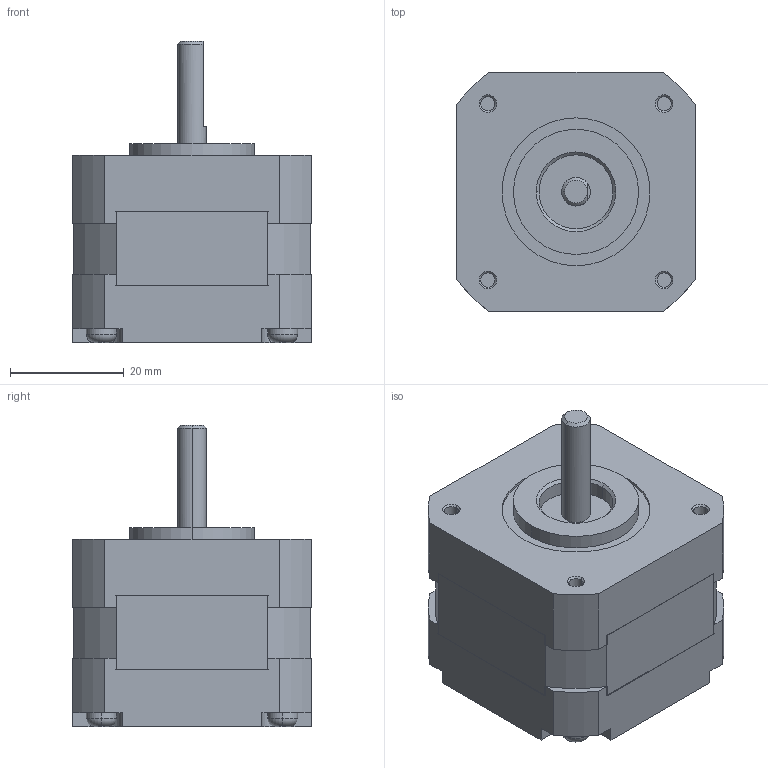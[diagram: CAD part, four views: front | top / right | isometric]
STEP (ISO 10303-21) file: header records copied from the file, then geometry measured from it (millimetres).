
FILE_DESCRIPTION (( 'STEP AP214' ), '1' );
FILE_NAME ('TS3617N1.STEP', '2011-09-15T08:47:03', ( '' ), ( '' ), 'SwSTEP 2.0', 'SolidWorks 2010', '' );
FILE_SCHEMA (( 'AUTOMOTIVE_DESIGN' ));
Length unit declared in the file: millimetre
Products named in the file (1): TS3617N1
Bounding box: 42 x 42 x 53 mm (x, y, z)
Volume: 55627.5 mm3; surface area: 13405.2 mm2
Topology: 2 solids, 2 shells, 188 faces, 496 edges, 322 vertices
Faces by surface type: plane 96, cylinder 70, cone 14, torus 8
Entity records: 6194 total; most frequent: CARTESIAN_POINT 1275, DIRECTION 1024, ORIENTED_EDGE 992, EDGE_CURVE 496, AXIS2_PLACEMENT_3D 373, VERTEX_POINT 322, LINE 278, VECTOR 278
